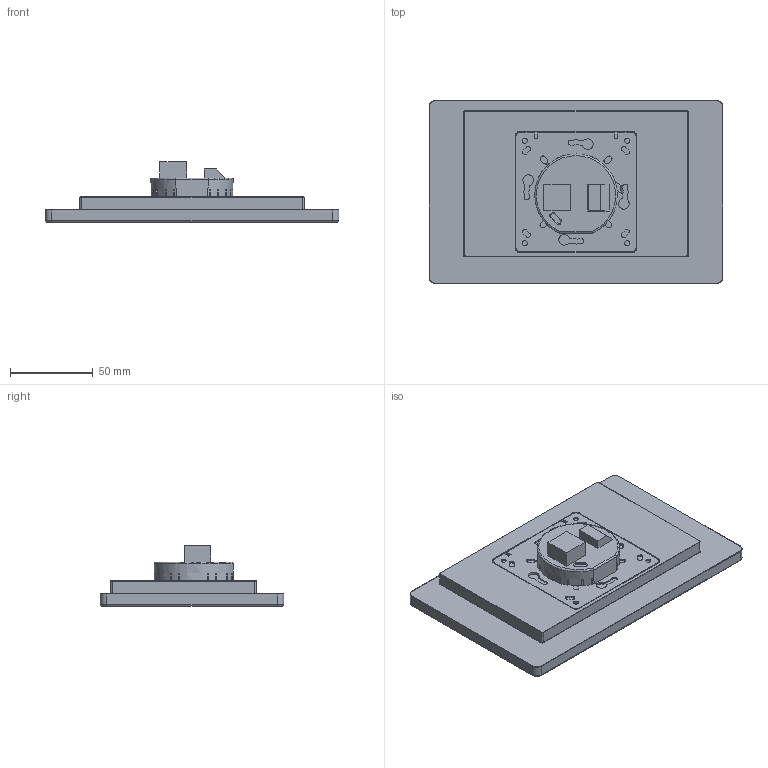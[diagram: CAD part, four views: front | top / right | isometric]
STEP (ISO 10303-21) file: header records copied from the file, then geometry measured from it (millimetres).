
FILE_DESCRIPTION(/* description */ ('Unknown'),/* implementation_level */ '2;1');
FILE_NAME(/* name */ 'Display_7z_assembly_simple',/* time_stamp */ '2021-10-18T15:48:57+02:00',/* author */ ('Unknown'),/* organization */ ('Unknown'),/* preprocessor_version */ 'ST-DEVELOPER v16.7',/* originating_system */ 'DEX',/* authorisation */ $);
FILE_SCHEMA (('CONFIG_CONTROL_DESIGN'));
Length unit declared in the file: millimetre
Products named in the file (1): Display_7z_assembly_simple
Bounding box: 178 x 111 x 36.45 mm (x, y, z)
Volume: 263852 mm3; surface area: 62588.3 mm2
Topology: 1 solids, 1 shells, 610 faces, 1728 edges, 1104 vertices
Faces by surface type: plane 303, cylinder 179, cone 97, torus 31
Full cylindrical faces by diameter (mm): 3 x4
Entity records: 24241 total; most frequent: CARTESIAN_POINT 3770, DIRECTION 3433, ORIENTED_EDGE 3424, EDGE_CURVE 1712, AXIS2_PLACEMENT_3D 1224, VERTEX_POINT 1098, LINE 985, VECTOR 985
